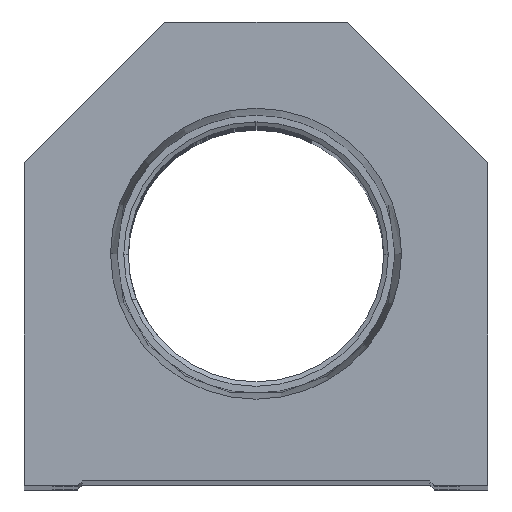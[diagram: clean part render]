
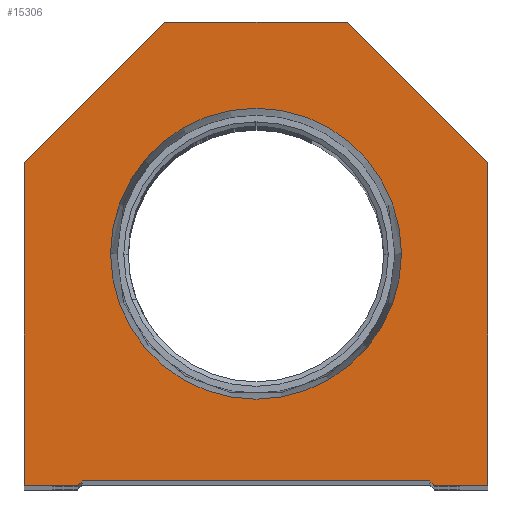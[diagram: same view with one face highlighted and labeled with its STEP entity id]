
A CAD part, top view. The second image highlights one B-rep face of the part: STEP entity #15306.
In plain terms, the highlighted planar face has unit normal (0, 0, 1).
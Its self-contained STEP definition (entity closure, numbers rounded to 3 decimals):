
#136 = EDGE_CURVE ( 'NONE', #6900, #20687, #11673, .T. ) ;
#160 = EDGE_CURVE ( 'NONE', #3462, #13942, #3181, .T. ) ;
#427 = DIRECTION ( 'NONE',  ( 1., 0., 0. ) ) ;
#624 = CIRCLE ( 'NONE', #2158, 15.947 ) ;
#722 = VERTEX_POINT ( 'NONE', #7878 ) ;
#884 = CARTESIAN_POINT ( 'NONE',  ( -19.05, 0., 0. ) ) ;
#1108 = EDGE_CURVE ( 'NONE', #11661, #4988, #10505, .T. ) ;
#1250 = CARTESIAN_POINT ( 'NONE',  ( 0., 0., 0. ) ) ;
#1486 = FACE_BOUND ( 'NONE', #18931, .T. ) ;
#2158 = AXIS2_PLACEMENT_3D ( 'NONE', #11856, #6566, #13235 ) ;
#2269 = VECTOR ( 'NONE', #6256, 1000. ) ;
#2556 = VECTOR ( 'NONE', #15854, 1000. ) ;
#3181 = LINE ( 'NONE', #7317, #2556 ) ;
#3462 = VERTEX_POINT ( 'NONE', #3874 ) ;
#3874 = CARTESIAN_POINT ( 'NONE',  ( -19.05, 0.5, 0. ) ) ;
#4231 = ORIENTED_EDGE ( 'NONE', *, *, #8367, .T. ) ;
#4825 = LINE ( 'NONE', #12590, #21147 ) ;
#4988 = VERTEX_POINT ( 'NONE', #19007 ) ;
#5026 = LINE ( 'NONE', #8719, #15783 ) ;
#5132 = VECTOR ( 'NONE', #17149, 1000. ) ;
#5133 = CARTESIAN_POINT ( 'NONE',  ( 9.775, 9.775, 0. ) ) ;
#5251 = ORIENTED_EDGE ( 'NONE', *, *, #17348, .T. ) ;
#5334 = CARTESIAN_POINT ( 'NONE',  ( 15.947, 25.4, 0. ) ) ;
#5594 = ORIENTED_EDGE ( 'NONE', *, *, #12871, .T. ) ;
#5714 = ORIENTED_EDGE ( 'NONE', *, *, #5814, .T. ) ;
#5814 = EDGE_CURVE ( 'NONE', #20291, #16694, #16918, .T. ) ;
#6162 = VERTEX_POINT ( 'NONE', #15593 ) ;
#6185 = VERTEX_POINT ( 'NONE', #12096 ) ;
#6240 = CARTESIAN_POINT ( 'NONE',  ( 25.4, 0., 0. ) ) ;
#6256 = DIRECTION ( 'NONE',  ( -1., 0., 0. ) ) ;
#6307 = DIRECTION ( 'NONE',  ( 1., 0., 0. ) ) ;
#6566 = DIRECTION ( 'NONE',  ( 0., 0., 1. ) ) ;
#6721 = DIRECTION ( 'NONE',  ( 0., 1., 0. ) ) ;
#6900 = VERTEX_POINT ( 'NONE', #15958 ) ;
#7133 = VERTEX_POINT ( 'NONE', #6240 ) ;
#7317 = CARTESIAN_POINT ( 'NONE',  ( -19.05, 0.5, 0. ) ) ;
#7770 = VECTOR ( 'NONE', #21092, 1000. ) ;
#7878 = CARTESIAN_POINT ( 'NONE',  ( -19.55, 0., 0. ) ) ;
#8002 = CARTESIAN_POINT ( 'NONE',  ( 10., 50.8, 0. ) ) ;
#8367 = EDGE_CURVE ( 'NONE', #20687, #6162, #4825, .T. ) ;
#8534 = ORIENTED_EDGE ( 'NONE', *, *, #16828, .T. ) ;
#8610 = CARTESIAN_POINT ( 'NONE',  ( 10., 50.8, 0. ) ) ;
#8669 = AXIS2_PLACEMENT_3D ( 'NONE', #22943, #8781, #15585 ) ;
#8719 = CARTESIAN_POINT ( 'NONE',  ( 19.05, 0., 0. ) ) ;
#8781 = DIRECTION ( 'NONE',  ( 0., 0., 1. ) ) ;
#9337 = LINE ( 'NONE', #884, #13584 ) ;
#9817 = ORIENTED_EDGE ( 'NONE', *, *, #13271, .F. ) ;
#9852 = ORIENTED_EDGE ( 'NONE', *, *, #160, .T. ) ;
#10096 = CARTESIAN_POINT ( 'NONE',  ( -25.4, 35.4, 0. ) ) ;
#10332 = DIRECTION ( 'NONE',  ( 1., 0., 0. ) ) ;
#10505 = CIRCLE ( 'NONE', #8669, 15.947 ) ;
#10890 = CARTESIAN_POINT ( 'NONE',  ( -25.4, 35.4, 0. ) ) ;
#11661 = VERTEX_POINT ( 'NONE', #5334 ) ;
#11673 = LINE ( 'NONE', #10096, #5132 ) ;
#11856 = CARTESIAN_POINT ( 'NONE',  ( 0., 25.4, 0. ) ) ;
#12096 = CARTESIAN_POINT ( 'NONE',  ( 19.55, 0., 0. ) ) ;
#12184 = EDGE_CURVE ( 'NONE', #16694, #6900, #20139, .T. ) ;
#12590 = CARTESIAN_POINT ( 'NONE',  ( -25.4, 0., 0. ) ) ;
#12792 = EDGE_CURVE ( 'NONE', #6185, #7133, #5026, .T. ) ;
#12871 = EDGE_CURVE ( 'NONE', #7133, #20291, #15487, .T. ) ;
#13103 = CARTESIAN_POINT ( 'NONE',  ( 25.4, 35.4, 0. ) ) ;
#13235 = DIRECTION ( 'NONE',  ( 1., 0., 0. ) ) ;
#13271 = EDGE_CURVE ( 'NONE', #4988, #11661, #624, .T. ) ;
#13335 = LINE ( 'NONE', #5133, #14432 ) ;
#13584 = VECTOR ( 'NONE', #427, 1000. ) ;
#13676 = ORIENTED_EDGE ( 'NONE', *, *, #14216, .T. ) ;
#13856 = CARTESIAN_POINT ( 'NONE',  ( 25.4, 0., 0. ) ) ;
#13942 = VERTEX_POINT ( 'NONE', #16071 ) ;
#14020 = ORIENTED_EDGE ( 'NONE', *, *, #12792, .T. ) ;
#14063 = ORIENTED_EDGE ( 'NONE', *, *, #1108, .F. ) ;
#14216 = EDGE_CURVE ( 'NONE', #6162, #722, #9337, .T. ) ;
#14432 = VECTOR ( 'NONE', #22756, 1000. ) ;
#14456 = LINE ( 'NONE', #17843, #7770 ) ;
#14633 = VECTOR ( 'NONE', #6721, 1000. ) ;
#15199 = PLANE ( 'NONE',  #19473 ) ;
#15306 = ADVANCED_FACE ( 'NONE', ( #1486, #20779 ), #15199, .T. ) ;
#15412 = DIRECTION ( 'NONE',  ( -0.707, 0.707, 0. ) ) ;
#15438 = DIRECTION ( 'NONE',  ( 0., 0., 1. ) ) ;
#15487 = LINE ( 'NONE', #13856, #14633 ) ;
#15585 = DIRECTION ( 'NONE',  ( 1., 0., 0. ) ) ;
#15589 = VECTOR ( 'NONE', #15412, 1000. ) ;
#15593 = CARTESIAN_POINT ( 'NONE',  ( -25.4, 0., 0. ) ) ;
#15783 = VECTOR ( 'NONE', #10332, 1000. ) ;
#15854 = DIRECTION ( 'NONE',  ( 1., 0., 0. ) ) ;
#15958 = CARTESIAN_POINT ( 'NONE',  ( -10., 50.8, 0. ) ) ;
#16071 = CARTESIAN_POINT ( 'NONE',  ( 19.05, 0.5, 0. ) ) ;
#16694 = VERTEX_POINT ( 'NONE', #8610 ) ;
#16815 = ORIENTED_EDGE ( 'NONE', *, *, #12184, .T. ) ;
#16828 = EDGE_CURVE ( 'NONE', #722, #3462, #14456, .T. ) ;
#16918 = LINE ( 'NONE', #19932, #15589 ) ;
#17149 = DIRECTION ( 'NONE',  ( -0.707, -0.707, 0. ) ) ;
#17348 = EDGE_CURVE ( 'NONE', #13942, #6185, #13335, .T. ) ;
#17843 = CARTESIAN_POINT ( 'NONE',  ( -9.775, 9.775, 0. ) ) ;
#18931 = EDGE_LOOP ( 'NONE', ( #14063, #9817 ) ) ;
#19007 = CARTESIAN_POINT ( 'NONE',  ( -15.947, 25.4, 0. ) ) ;
#19473 = AXIS2_PLACEMENT_3D ( 'NONE', #1250, #15438, #6307 ) ;
#19932 = CARTESIAN_POINT ( 'NONE',  ( 25.4, 35.4, 0. ) ) ;
#20139 = LINE ( 'NONE', #8002, #2269 ) ;
#20291 = VERTEX_POINT ( 'NONE', #13103 ) ;
#20687 = VERTEX_POINT ( 'NONE', #10890 ) ;
#20779 = FACE_OUTER_BOUND ( 'NONE', #20889, .T. ) ;
#20889 = EDGE_LOOP ( 'NONE', ( #13676, #8534, #9852, #5251, #14020, #5594, #5714, #16815, #22823, #4231 ) ) ;
#21092 = DIRECTION ( 'NONE',  ( 0.707, 0.707, 0. ) ) ;
#21147 = VECTOR ( 'NONE', #21536, 1000. ) ;
#21536 = DIRECTION ( 'NONE',  ( 0., -1., 0. ) ) ;
#22756 = DIRECTION ( 'NONE',  ( 0.707, -0.707, 0. ) ) ;
#22823 = ORIENTED_EDGE ( 'NONE', *, *, #136, .T. ) ;
#22943 = CARTESIAN_POINT ( 'NONE',  ( 0., 25.4, 0. ) ) ;
